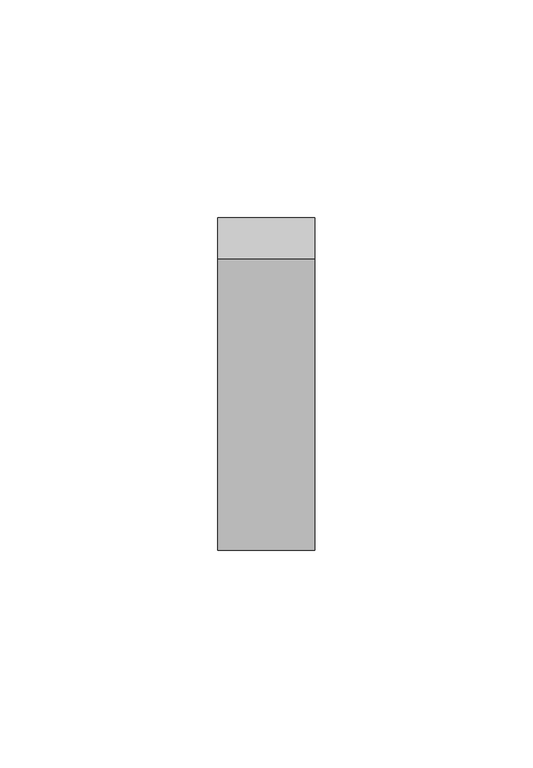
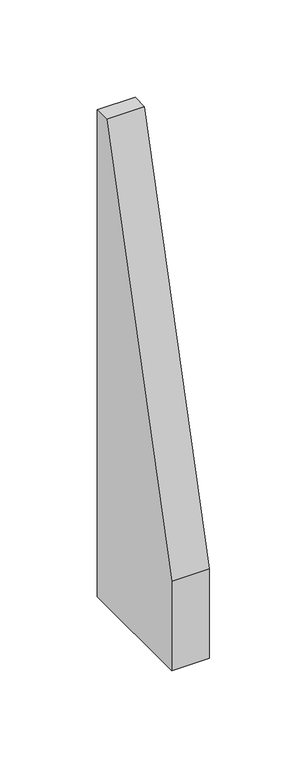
"""IFC4 building model written with IfcOpenShell, lengths in millimetres: proxy geometry, AERO^TABLE 3_ATS2S-4896-REV2-NOPOWER^CANTLIVER SLD 0106."""

from ifc_helpers import new_model, si_unit, frame, origin, place, context, project, spatial, polyline, outline, extrude, source, transform, mapped, element, save


def generic_models_44946b0e(model_context):
    return source(origin(), model_context, "Body", "SweptSolid", [
        extrude(outline(polyline([(76.2, 0.0), (76.2, -304.8), (0.0, -304.8), (0.0, -248.8344876), (66.675, 0.0), (76.2, 0.0)])), frame((0.0, 0.0, 0.0), z_axis=(1.0, 0.0, 0.0), x_axis=(0.0, 1.0, 0.0)), (0.0, 0.0, 1.0), 22.225),
    ])


if __name__ == "__main__":
    model = new_model("IFC4")
    model_context = context("Model", 3, world=origin())
    ifc_project = project(units=[si_unit("LENGTHUNIT", "METRE", prefix="MILLI")], contexts=[model_context])
    site = spatial("IfcSite", under=ifc_project)
    building = spatial("IfcBuilding", under=site)
    placement = place(None, origin())
    generic_models_shape = generic_models_44946b0e(model_context)
    element("IfcBuildingElementProxy", 1, Name="AERO^TABLE 3_ATS2S-4896-REV2-NOPOWER^CANTLIVER SLD 0106", ObjectType="AERO^TABLE 3_ATS2S-4896-REV2-NOPOWER^CANTLIVER SLD 0106", at=placement, inside=building, context=model_context, shape_type="MappedRepresentation", body=[
        mapped(generic_models_shape, transform((0.0, 0.0, 0.0), x_axis=(1.0, 0.0, 0.0), y_axis=(0.0, 1.0, 0.0), z_axis=(0.0, 0.0, 1.0))),
    ])
    save(model, "model.ifc")
